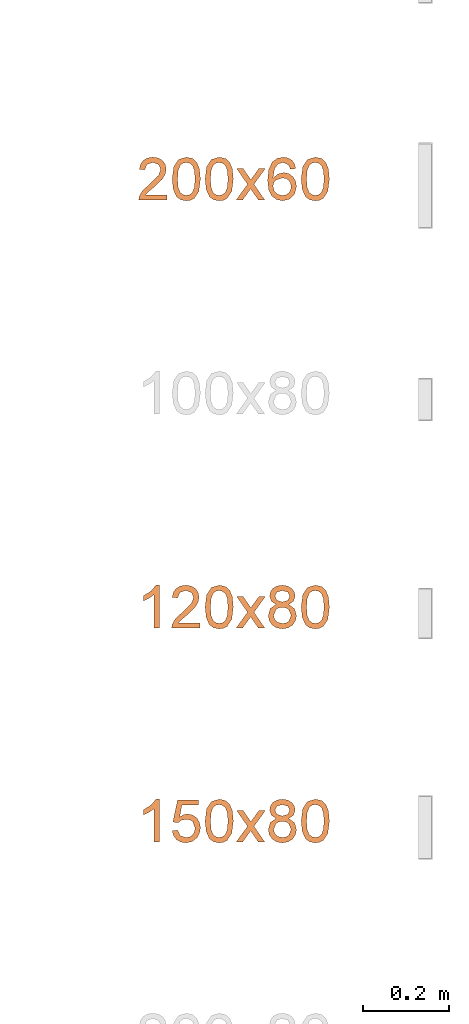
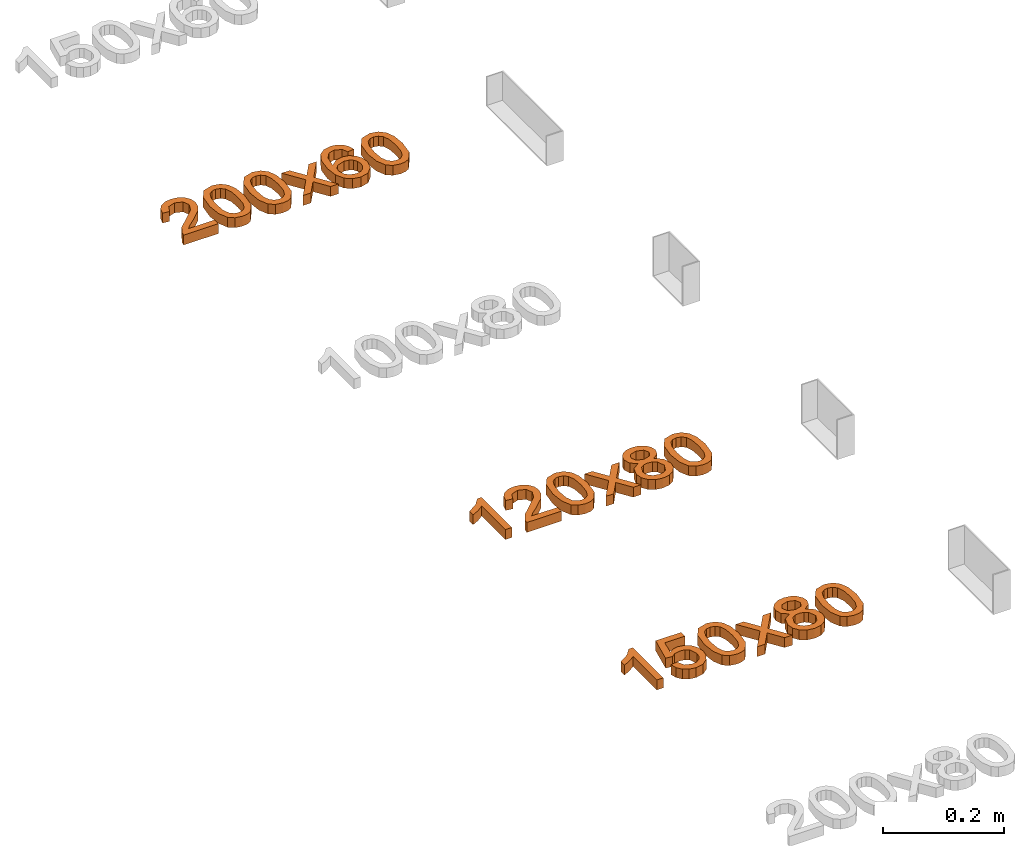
# One storey, part 57 of 71: 3 proxies.
"""IFC2X3 building model written with IfcOpenShell, lengths in millimetres."""

from ifc_helpers import new_model, entity, si_unit, converted_unit, derived_unit, direction, frame, origin, place, context, subcontext, project, spatial, polyline, outline, extrude, element, save


model = new_model("IFC2X3")

# Units and contexts
model_context = context("Model", 3, precision=0.01, world=origin(), true_north=direction((6.12303176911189e-17, 1.0)))
body_context = subcontext(model_context, "Body", "Model", "MODEL_VIEW")
ifc_project = project(units=[si_unit("LENGTHUNIT", "METRE", prefix="MILLI"), si_unit("AREAUNIT", "SQUARE_METRE"), si_unit("VOLUMEUNIT", "CUBIC_METRE"), converted_unit("PLANEANGLEUNIT", "DEGREE", entity("IfcRatioMeasure", 0.0174532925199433), si_unit("PLANEANGLEUNIT", "RADIAN"), dimensions=[0, 0, 0, 0, 0, 0, 0]), si_unit("MASSUNIT", "GRAM", prefix="KILO"), derived_unit("MASSDENSITYUNIT", [(si_unit("MASSUNIT", "GRAM", prefix="KILO"), 1), (si_unit("LENGTHUNIT", "METRE"), -3)]), si_unit("TIMEUNIT", "SECOND"), si_unit("FREQUENCYUNIT", "HERTZ"), si_unit("THERMODYNAMICTEMPERATUREUNIT", "DEGREE_CELSIUS"), derived_unit("THERMALTRANSMITTANCEUNIT", [(si_unit("MASSUNIT", "GRAM", prefix="KILO"), 1), (si_unit("THERMODYNAMICTEMPERATUREUNIT", "KELVIN"), -1), (si_unit("TIMEUNIT", "SECOND"), -3)]), derived_unit("VOLUMETRICFLOWRATEUNIT", [(si_unit("LENGTHUNIT", "METRE"), 3), (si_unit("TIMEUNIT", "SECOND"), -1)]), si_unit("ELECTRICCURRENTUNIT", "AMPERE"), si_unit("ELECTRICVOLTAGEUNIT", "VOLT"), si_unit("POWERUNIT", "WATT"), si_unit("FORCEUNIT", "NEWTON", prefix="KILO"), si_unit("ILLUMINANCEUNIT", "LUX"), si_unit("LUMINOUSFLUXUNIT", "LUMEN"), si_unit("LUMINOUSINTENSITYUNIT", "CANDELA"), derived_unit("USERDEFINED", [(si_unit("MASSUNIT", "GRAM", prefix="KILO"), -1), (si_unit("LENGTHUNIT", "METRE"), -2), (si_unit("TIMEUNIT", "SECOND"), 3), (si_unit("LUMINOUSFLUXUNIT", "LUMEN"), 1)]), derived_unit("LINEARVELOCITYUNIT", [(si_unit("LENGTHUNIT", "METRE"), 1), (si_unit("TIMEUNIT", "SECOND"), -1)]), si_unit("PRESSUREUNIT", "PASCAL"), derived_unit("USERDEFINED", [(si_unit("LENGTHUNIT", "METRE"), -2), (si_unit("MASSUNIT", "GRAM", prefix="KILO"), 1), (si_unit("TIMEUNIT", "SECOND"), -2)])], contexts=[model_context])

# Site, building, storey
site_placement = place(None, origin())
site = spatial("IfcSite", under=ifc_project, at=site_placement, Name="Default", CompositionType="ELEMENT")
building_placement = place(site_placement, origin())
building = spatial("IfcBuilding", under=site, at=building_placement, Name="Наименование здания", CompositionType="ELEMENT")
storey_placement = place(building_placement, origin())
storey = spatial("IfcBuildingStorey", under=building, at=storey_placement, Name="Этаж 01", CompositionType="ELEMENT", Elevation=0.0)

# Proxies
proxy_1_placement = place(storey_placement, origin())
element("IfcBuildingElementProxy", 1, at=proxy_1_placement, inside=storey, Name="Текст модели:100 мм Arial", ObjectType="Текст модели:100 мм Arial", context=body_context, shape_type="SweptSolid", body=[
    extrude(outline(polyline([(-32.3858783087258, -45.1669477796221), (-32.3858783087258, -57.7239865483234), (33.5385752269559, -57.7239865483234), (32.1896745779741, -49.0664969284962), (24.5622545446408, -35.7369059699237), (8.84143061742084, -21.1810416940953), (-12.8390816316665, -0.26081890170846), (-18.259209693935, 13.9639515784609), (-13.1456499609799, 25.4786580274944), (0.208466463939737, 30.1752848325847), (14.1266686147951, 25.5890226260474), (19.4119066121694, 12.9093565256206), (31.968945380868, 14.4789863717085), (28.9247218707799, 26.6252235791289), (22.3426998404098, 35.4973110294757), (12.5662358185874, 40.9235704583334), (-0.0613136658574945, 42.732323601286), (-12.7808336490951, 40.721235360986), (-22.5389035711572, 34.6879706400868), (-28.7469122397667, 25.6748617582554), (-30.816248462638, 14.7242410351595), (-28.584431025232, 2.81712712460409), (-21.1654774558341, -9.49465698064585), (-3.17604789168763, -26.6992716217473), (11.2694517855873, -38.7780637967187), (16.9348345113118, -45.1669477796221), (-32.3858783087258, -45.1669477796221)])), frame((23949.9248832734, -2395.611269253, 0.0), z_axis=(0.0, 0.0, -1.0), x_axis=(-1.0, 0.0, 0.0)), (0.0, 0.0, -1.0), 20.0),
    extrude(outline(polyline([(-7.02884310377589, -33.3490673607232), (17.5323805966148, -33.3490673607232), (35.1984171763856, -27.6137612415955), (43.3439841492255, -18.4876517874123), (47.0516941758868, -5.7515066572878), (46.7162020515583, 4.48638208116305), (43.4465778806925, 13.0955287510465), (27.9444305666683, 25.6659118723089), (-0.314338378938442, 32.2325535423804), (-24.0296505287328, 32.367828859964), (-39.4143020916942, 28.0260881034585), (-49.7293680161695, 18.9002174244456), (-54.4436715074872, 4.63998875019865), (-50.8676582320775, -14.1301059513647), (-35.405854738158, -26.7333390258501), (-7.02884310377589, -33.3490673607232)]), holes=[polyline([(-5.77428774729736, -20.8548320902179), (-25.0157644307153, -17.3562860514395), (-36.7257089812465, -11.5717922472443), (-41.0962588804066, -4.77599682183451), (-41.9669219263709, 3.21464792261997), (-39.2244253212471, 11.2791292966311), (-32.8654063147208, 17.2229259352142), (-20.9698370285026, 20.2947501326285), (-1.61768958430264, 19.743314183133), (17.8514140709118, 16.270770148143), (28.7803640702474, 10.7141596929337), (33.554698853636, 3.61815959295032), (34.5599568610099, -4.47255337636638), (31.9421230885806, -12.192319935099), (25.8471825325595, -18.1754808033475), (14.0250679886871, -21.4027476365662), (-5.77428774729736, -20.8548320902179)])]), frame((24028.7593379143, -2407.51207886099, 0.0), z_axis=(0.0, 0.0, 1.0), x_axis=(0.101851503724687, -0.994799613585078, 0.0)), (0.0, 0.0, 1.0), 20.0),
    extrude(outline(polyline([(-7.02884310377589, -33.3490673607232), (17.5323805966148, -33.3490673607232), (35.1984171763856, -27.6137612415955), (43.3439841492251, -18.4876517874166), (47.0516941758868, -5.7515066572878), (46.7162020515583, 4.48638208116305), (43.4465778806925, 13.0955287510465), (27.9444305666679, 25.6659118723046), (-0.314338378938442, 32.2325535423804), (-24.0296505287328, 32.367828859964), (-39.4143020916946, 28.0260881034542), (-49.7293680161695, 18.9002174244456), (-54.4436715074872, 4.63998875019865), (-50.867658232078, -14.130105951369), (-35.405854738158, -26.7333390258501), (-7.02884310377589, -33.3490673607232)]), holes=[polyline([(-5.7742877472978, -20.8548320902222), (-25.0157644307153, -17.3562860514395), (-36.7257089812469, -11.5717922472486), (-41.096258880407, -4.77599682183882), (-41.9669219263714, 3.21464792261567), (-39.2244253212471, 11.2791292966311), (-32.8654063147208, 17.2229259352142), (-20.969837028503, 20.2947501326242), (-1.61768958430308, 19.7433141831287), (17.8514140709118, 16.270770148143), (28.7803640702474, 10.7141596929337), (33.5546988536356, 3.61815959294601), (34.5599568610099, -4.47255337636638), (31.9421230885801, -12.1923199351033), (25.8471825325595, -18.1754808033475), (14.0250679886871, -21.4027476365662), (-5.7742877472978, -20.8548320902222)])]), frame((24105.6712003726, -2407.51207886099, 0.0), z_axis=(0.0, 0.0, 1.0), x_axis=(0.101851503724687, -0.994799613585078, 0.0)), (0.0, 0.0, 1.0), 20.0),
    extrude(outline(polyline([(-34.5302215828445, -38.4265006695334), (-19.4225343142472, -38.4265006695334), (-0.341721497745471, -12.0616243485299), (2.47870713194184, -16.1328517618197), (17.8561745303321, -38.4265006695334), (32.9638617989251, -38.4265006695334), (7.40832586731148, -1.34399555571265), (33.9448804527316, 35.3461020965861), (18.8371931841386, 35.3461020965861), (4.95577923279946, 16.1671874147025), (0.0261604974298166, 9.34910777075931), (-5.66374769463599, 17.6877663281), (-17.8529044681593, 35.3461020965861), (-32.9605917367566, 35.3461020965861), (-7.69936140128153, -1.34399555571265), (-34.5302215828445, -38.4265006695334)])), frame((24178.512857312, -2414.90875513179, 0.0)), (0.0, 0.0, 1.0), 20.0),
    extrude(outline(polyline([(6.79275401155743, -32.5027761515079), (18.3659045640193, -32.5027761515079), (28.152520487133, -28.8011371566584), (35.6312934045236, -21.7178704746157), (40.2809149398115, -11.5729874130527), (41.4130789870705, 3.23667074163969), (36.139124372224, 16.3729018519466), (21.8599739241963, 28.8803269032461), (-1.50836821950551, 38.2054593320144), (-23.6059131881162, 41.7609274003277), (-39.9814227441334, 38.5965283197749), (-51.165079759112, 29.9216784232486), (-57.6870671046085, 16.9457940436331), (-57.9805556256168, -0.0494879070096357), (-49.2081886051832, -14.3141019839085), (-33.6167855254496, -22.9350568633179), (-20.6265742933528, -24.2502330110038), (-8.97800352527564, -20.6254922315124), (0.0919027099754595, -13.0350962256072), (5.34612034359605, -2.45330669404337), (5.8548316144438, 11.6447254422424), (-0.843339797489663, 24.9910631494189), (19.7707676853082, 15.5765036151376), (28.4840991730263, 4.26766164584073), (28.3893512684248, -7.46374532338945), (19.9956250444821, -18.1936336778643), (8.63303585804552, -19.9825396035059), (6.79275401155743, -32.5027761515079)]), holes=[polyline([(-18.7586717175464, 29.9549594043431), (-11.6328110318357, 26.3613362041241), (-6.94154076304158, 20.2038317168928), (-5.85783236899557, 4.13761066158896), (-9.48331864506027, -3.95286412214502), (-15.1077394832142, -9.26901644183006), (-22.3091633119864, -11.5969098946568), (-30.6656585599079, -10.7226080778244), (-38.6094491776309, -7.06141592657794), (-43.8637090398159, -1.22509865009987), (-46.1835287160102, 6.17768396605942), (-45.3239987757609, 14.5382721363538), (-39.6901171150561, 24.7221971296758), (-30.0168134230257, 30.0585493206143), (-18.7586717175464, 29.9549594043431)])]), frame((24254.1707871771, -2394.7875175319, 0.0), z_axis=(0.0, 0.0, 1.0), x_axis=(-0.267015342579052, 0.963692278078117, 0.0)), (0.0, 0.0, 1.0), 20.0),
    extrude(outline(polyline([(-7.02884310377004, -33.3490673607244), (17.5323805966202, -33.3490673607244), (35.1984171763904, -27.6137612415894), (43.3439841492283, -18.487651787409), (47.0516941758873, -5.75150665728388), (46.716202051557, 4.48638208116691), (43.4465778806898, 13.0955287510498), (27.9444305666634, 25.6659118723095), (-0.314338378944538, 32.2325535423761), (-24.0296505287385, 32.3678288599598), (-39.4143020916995, 28.0260881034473), (-49.7293680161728, 18.9002174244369), (-54.4436715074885, 4.63998875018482), (-50.8676582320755, -14.1301059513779), (-35.4058547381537, -26.7333390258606), (-7.02884310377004, -33.3490673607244)]), holes=[polyline([(-5.77428774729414, -20.8548320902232), (-25.0157644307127, -17.3562860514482), (-36.7257089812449, -11.5717922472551), (-41.0962588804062, -4.77599682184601), (-41.966921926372, 3.21464792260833), (-39.2244253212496, 11.2791292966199), (-32.8654063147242, 17.2229259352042), (-20.9698370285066, 20.2947501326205), (-1.61768958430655, 19.7433141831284), (17.8514140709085, 16.2707701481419), (28.7803640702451, 10.7141596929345), (33.5546988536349, 3.61815959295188), (34.5599568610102, -4.47255337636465), (31.9421230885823, -12.1923199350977), (25.8471825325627, -18.175480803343), (14.0250679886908, -21.4027476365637), (-5.77428774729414, -20.8548320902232)])]), frame((24330.1282683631, -2407.51207886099, 0.0), z_axis=(0.0, 0.0, 1.0), x_axis=(0.101851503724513, -0.994799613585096, 0.0)), (0.0, 0.0, 1.0), 20.0),
])
proxy_2_placement = place(storey_placement, origin())
element("IfcBuildingElementProxy", 2, at=proxy_2_placement, inside=storey, Name="Текст модели:100 мм Arial", ObjectType="Текст модели:100 мм Arial", context=body_context, shape_type="SweptSolid", body=[
    extrude(outline(polyline([(-63.8793021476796, -16.9184842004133), (36.5770080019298, -16.9184842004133), (36.5770080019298, -8.82508030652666), (23.2106288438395, 2.34626961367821), (11.4629304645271, 20.7526321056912), (-0.407395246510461, 20.7526321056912), (5.93243780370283, 7.53340574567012), (14.4059864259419, -4.3614454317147), (-63.8793021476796, -4.3614454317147), (-63.8793021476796, -16.9184842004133)])), frame((23948.1263490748, -3389.45595365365, 0.0), z_axis=(0.0, 0.0, 1.0), x_axis=(0.0, 1.0, 0.0)), (0.0, 0.0, 1.0), 20.0),
    extrude(outline(polyline([(-32.3858783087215, -45.1669477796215), (-32.3858783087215, -57.7239865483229), (33.5385752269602, -57.7239865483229), (32.1896745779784, -49.0664969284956), (24.5622545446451, -35.7369059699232), (8.84143061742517, -21.1810416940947), (-12.8390816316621, -0.260818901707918), (-18.259209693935, 13.9639515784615), (-13.1456499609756, 25.478658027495), (0.208466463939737, 30.1752848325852), (14.1266686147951, 25.589022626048), (19.4119066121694, 12.9093565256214), (31.9689453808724, 14.4789863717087), (28.9247218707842, 26.6252235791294), (22.3426998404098, 35.4973110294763), (12.5662358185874, 40.923570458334), (-0.061313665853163, 42.7323236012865), (-12.7808336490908, 40.7212353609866), (-22.5389035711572, 34.6879706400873), (-28.7469122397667, 25.6748617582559), (-30.8162484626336, 14.7242410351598), (-28.5844310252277, 2.81712712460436), (-21.1654774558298, -9.49465698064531), (-3.1760478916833, -26.6992716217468), (11.2694517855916, -38.7780637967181), (16.9348345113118, -45.1669477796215), (-32.3858783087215, -45.1669477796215)])), frame((24026.8367457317, -3395.61126925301, 0.0), z_axis=(0.0, 0.0, -1.0), x_axis=(-1.0, 0.0, 0.0)), (0.0, 0.0, -1.0), 20.0),
    extrude(outline(polyline([(-7.02884310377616, -33.3490673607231), (17.5323805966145, -33.3490673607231), (35.1984171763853, -27.6137612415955), (43.3439841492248, -18.4876517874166), (47.0516941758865, -5.75150665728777), (46.716202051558, 4.48638208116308), (43.4465778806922, 13.0955287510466), (27.9444305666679, 25.6659118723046), (-0.314338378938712, 32.2325535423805), (-24.0296505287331, 32.367828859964), (-39.4143020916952, 28.0260881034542), (-49.7293680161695, 18.9002174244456), (-54.4436715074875, 4.63998875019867), (-50.867658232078, -14.130105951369), (-35.405854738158, -26.7333390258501), (-7.02884310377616, -33.3490673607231)]), holes=[polyline([(-5.77428774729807, -20.8548320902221), (-25.0157644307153, -17.3562860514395), (-36.7257089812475, -11.5717922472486), (-41.0962588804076, -4.77599682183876), (-41.9669219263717, 3.21464792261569), (-39.2244253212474, 11.2791292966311), (-32.8654063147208, 17.2229259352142), (-20.969837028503, 20.2947501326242), (-1.61768958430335, 19.7433141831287), (17.8514140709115, 16.2707701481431), (28.7803640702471, 10.7141596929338), (33.5546988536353, 3.61815959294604), (34.5599568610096, -4.47255337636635), (31.9421230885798, -12.1923199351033), (25.8471825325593, -18.1754808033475), (14.0250679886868, -21.4027476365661), (-5.77428774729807, -20.8548320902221)])]), frame((24105.6712003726, -3407.512078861, 0.0), z_axis=(0.0, 0.0, 1.0), x_axis=(0.101851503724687, -0.994799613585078, 0.0)), (0.0, 0.0, 1.0), 20.0),
    extrude(outline(polyline([(-34.5302215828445, -38.4265006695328), (-19.4225343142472, -38.4265006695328), (-0.341721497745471, -12.0616243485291), (2.47870713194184, -16.1328517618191), (17.8561745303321, -38.4265006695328), (32.9638617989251, -38.4265006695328), (7.40832586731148, -1.34399555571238), (33.9448804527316, 35.3461020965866), (18.8371931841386, 35.3461020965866), (4.95577923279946, 16.1671874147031), (0.0261604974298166, 9.34910777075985), (-5.66374769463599, 17.6877663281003), (-17.8529044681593, 35.3461020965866), (-32.9605917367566, 35.3461020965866), (-7.69936140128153, -1.34399555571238), (-34.5302215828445, -38.4265006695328)])), frame((24178.512857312, -3414.9087551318, 0.0)), (0.0, 0.0, 1.0), 20.0),
    extrude(outline(polyline([(10.1224324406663, -11.2212127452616), (26.4477736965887, -11.2212127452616), (39.6861381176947, -0.0909413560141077), (44.6322314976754, 11.3078156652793), (44.5856416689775, 23.4168603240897), (39.6073830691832, 34.8346290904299), (29.7584701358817, 44.1595584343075), (17.4236057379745, 49.7956565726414), (4.98749274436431, 50.1469317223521), (-6.20047708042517, 45.7236060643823), (-14.7909119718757, 37.0359017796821), (-20.078166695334, 21.0056847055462), (-14.5070621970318, 5.37692494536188), (-28.0684052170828, 5.15563707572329), (-37.7221714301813, -2.60845010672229), (-41.5236361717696, -11.935700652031), (-41.0036870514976, -22.2232653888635), (-36.191615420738, -32.187077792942), (-27.1167126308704, -40.5430713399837), (-16.0503295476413, -45.812309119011), (-5.18246445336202, -46.5706787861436), (4.384533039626, -43.2361071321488), (11.5483133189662, -36.2265209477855), (15.251624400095, -24.0826582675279), (10.1224324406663, -11.2212127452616)]), holes=[polyline([(1.34077476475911, -28.903904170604), (-7.53771017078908, -33.9815875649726), (-20.2415350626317, -30.0339976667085), (-28.5905650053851, -19.6902819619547), (-26.980093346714, -9.13787919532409), (-18.1108932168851, -3.87648928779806), (-5.45128168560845, -7.82385811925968), (3.15927028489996, -18.2403048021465), (1.34077476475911, -28.903904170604)]), polyline([(29.0262968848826, 6.56051660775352), (17.1806533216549, -1.51571690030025), (9.68494123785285, -1.27757268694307), (1.95268767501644, 2.32885586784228), (-4.46267094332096, 8.27886886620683), (-7.6416115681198, 15.3010558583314), (-4.59707955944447, 29.6929468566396), (7.31333657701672, 37.7994665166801), (14.8367372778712, 37.4872096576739), (22.6595729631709, 33.8012523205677), (30.3730358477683, 25.5864099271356), (32.5711030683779, 15.5727469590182), (29.0262968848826, 6.56051660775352)])]), frame((24252.2860732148, -3401.65422231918, 0.0), z_axis=(0.0, 0.0, 1.0), x_axis=(-0.829266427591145, -0.558853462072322, 0.0)), (0.0, 0.0, 1.0), 20.0),
    extrude(outline(polyline([(-7.02884310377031, -33.3490673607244), (17.5323805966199, -33.3490673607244), (35.1984171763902, -27.6137612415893), (43.343984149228, -18.487651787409), (47.0516941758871, -5.75150665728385), (46.7162020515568, 4.48638208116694), (43.4465778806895, 13.0955287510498), (27.9444305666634, 25.6659118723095), (-0.314338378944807, 32.2325535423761), (-24.0296505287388, 32.3678288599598), (-39.4143020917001, 28.0260881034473), (-49.7293680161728, 18.9002174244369), (-54.4436715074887, 4.63998875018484), (-50.8676582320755, -14.1301059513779), (-35.4058547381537, -26.7333390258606), (-7.02884310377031, -33.3490673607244)]), holes=[polyline([(-5.77428774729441, -20.8548320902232), (-25.0157644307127, -17.3562860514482), (-36.7257089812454, -11.571792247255), (-41.0962588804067, -4.77599682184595), (-41.9669219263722, 3.21464792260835), (-39.2244253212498, 11.27912929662), (-32.8654063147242, 17.2229259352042), (-20.9698370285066, 20.2947501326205), (-1.61768958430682, 19.7433141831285), (17.8514140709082, 16.2707701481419), (28.7803640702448, 10.7141596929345), (33.5546988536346, 3.61815959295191), (34.5599568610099, -4.47255337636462), (31.942123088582, -12.1923199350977), (25.8471825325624, -18.1754808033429), (14.0250679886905, -21.4027476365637), (-5.77428774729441, -20.8548320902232)])]), frame((24330.1282683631, -3407.512078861, 0.0), z_axis=(0.0, 0.0, 1.0), x_axis=(0.101851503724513, -0.994799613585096, 0.0)), (0.0, 0.0, 1.0), 20.0),
])
proxy_3_placement = place(storey_placement, origin())
element("IfcBuildingElementProxy", 3, at=proxy_3_placement, inside=storey, Name="Текст модели:100 мм Arial", ObjectType="Текст модели:100 мм Arial", context=body_context, shape_type="SweptSolid", body=[
    extrude(outline(polyline([(-63.8793021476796, -16.9184842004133), (36.5770080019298, -16.9184842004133), (36.5770080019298, -8.82508030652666), (23.2106288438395, 2.34626961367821), (11.4629304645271, 20.7526321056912), (-0.407395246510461, 20.7526321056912), (5.93243780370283, 7.53340574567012), (14.4059864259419, -4.3614454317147), (-63.8793021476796, -4.3614454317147), (-63.8793021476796, -16.9184842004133)])), frame((23948.1263490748, -3889.45595365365, 0.0), z_axis=(0.0, 0.0, 1.0), x_axis=(0.0, 1.0, 0.0)), (0.0, 0.0, 1.0), 20.0),
    extrude(outline(polyline([(3.81439562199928, -37.254895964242), (15.7323946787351, -37.254895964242), (26.1588137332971, -33.0579698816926), (34.2921694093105, -25.0537205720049), (39.330978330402, -13.6317508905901), (40.2219288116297, 1.4340909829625), (34.3991305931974, 14.6815107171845), (25.535021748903, 23.1481891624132), (13.9054384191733, 28.2770976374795), (0.912111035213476, 29.4702838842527), (-10.715925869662, 25.7768606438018), (-19.7427074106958, 18.0989984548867), (-24.9322687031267, 7.33886785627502), (-25.5937300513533, -2.211247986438), (-22.6370240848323, -12.2793380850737), (-47.9924930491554, 0.0204883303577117), (-38.0977082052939, 37.2324069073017), (-50.2330599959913, 40.4592412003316), (-62.7370428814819, -6.56524698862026), (-15.5021967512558, -30.4943712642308), (-10.758443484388, -18.7623737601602), (-14.4216298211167, -10.4922324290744), (-13.6981616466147, 0.722667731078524), (-9.98738154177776, 9.35727561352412), (-4.32553373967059, 14.6878856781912), (11.4370636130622, 15.94006870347), (19.7481682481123, 12.2772427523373), (25.435572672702, 6.40632241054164), (28.0665145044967, -1.27212018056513), (27.2082313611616, -10.3575128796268), (19.6530635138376, -21.9256319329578), (5.52431094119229, -24.7161898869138), (3.81439562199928, -37.254895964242)])), frame((24029.8914117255, -3913.39170175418, 0.0), z_axis=(0.0, 0.0, 1.0), x_axis=(0.256974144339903, -0.966418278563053, 0.0)), (0.0, 0.0, 1.0), 20.0),
    extrude(outline(polyline([(-7.02884310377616, -33.3490673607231), (17.5323805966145, -33.3490673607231), (35.1984171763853, -27.6137612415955), (43.3439841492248, -18.4876517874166), (47.0516941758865, -5.75150665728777), (46.716202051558, 4.48638208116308), (43.4465778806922, 13.0955287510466), (27.9444305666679, 25.6659118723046), (-0.314338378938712, 32.2325535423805), (-24.0296505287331, 32.367828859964), (-39.4143020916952, 28.0260881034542), (-49.7293680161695, 18.9002174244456), (-54.4436715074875, 4.63998875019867), (-50.867658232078, -14.130105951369), (-35.405854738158, -26.7333390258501), (-7.02884310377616, -33.3490673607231)]), holes=[polyline([(-5.77428774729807, -20.8548320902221), (-25.0157644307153, -17.3562860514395), (-36.7257089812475, -11.5717922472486), (-41.0962588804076, -4.77599682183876), (-41.9669219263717, 3.21464792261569), (-39.2244253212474, 11.2791292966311), (-32.8654063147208, 17.2229259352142), (-20.969837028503, 20.2947501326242), (-1.61768958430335, 19.7433141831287), (17.8514140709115, 16.2707701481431), (28.7803640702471, 10.7141596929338), (33.5546988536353, 3.61815959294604), (34.5599568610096, -4.47255337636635), (31.9421230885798, -12.1923199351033), (25.8471825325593, -18.1754808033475), (14.0250679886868, -21.4027476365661), (-5.77428774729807, -20.8548320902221)])]), frame((24105.6712003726, -3907.51207886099, 0.0), z_axis=(0.0, 0.0, 1.0), x_axis=(0.101851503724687, -0.994799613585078, 0.0)), (0.0, 0.0, 1.0), 20.0),
    extrude(outline(polyline([(-34.5302215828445, -38.4265006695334), (-19.4225343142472, -38.4265006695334), (-0.341721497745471, -12.0616243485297), (2.47870713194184, -16.1328517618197), (17.8561745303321, -38.4265006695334), (32.9638617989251, -38.4265006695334), (7.40832586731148, -1.34399555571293), (33.9448804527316, 35.3461020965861), (18.8371931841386, 35.3461020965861), (4.95577923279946, 16.1671874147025), (0.0261604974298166, 9.34910777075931), (-5.66374769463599, 17.6877663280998), (-17.8529044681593, 35.3461020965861), (-32.9605917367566, 35.3461020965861), (-7.69936140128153, -1.34399555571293), (-34.5302215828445, -38.4265006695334)])), frame((24178.512857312, -3914.9087551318, 0.0)), (0.0, 0.0, 1.0), 20.0),
    extrude(outline(polyline([(10.122432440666, -11.221212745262), (26.4477736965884, -11.221212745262), (39.6861381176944, -0.0909413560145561), (44.6322314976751, 11.3078156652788), (44.5856416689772, 23.4168603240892), (39.6073830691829, 34.8346290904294), (29.7584701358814, 44.159558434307), (17.4236057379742, 49.795656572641), (4.98749274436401, 50.1469317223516), (-6.20047708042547, 45.7236060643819), (-14.790911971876, 37.0359017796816), (-20.0781666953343, 21.0056847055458), (-14.5070621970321, 5.37692494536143), (-28.0684052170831, 5.15563707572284), (-37.7221714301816, -2.60845010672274), (-41.5236361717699, -11.9357006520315), (-41.0036870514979, -22.2232653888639), (-36.1916154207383, -32.1870777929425), (-27.1167126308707, -40.5430713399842), (-16.0503295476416, -45.8123091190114), (-5.18246445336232, -46.5706787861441), (4.3845330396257, -43.2361071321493), (11.5483133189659, -36.2265209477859), (15.2516244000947, -24.0826582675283), (10.122432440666, -11.221212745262)]), holes=[polyline([(29.0262968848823, 6.56051660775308), (17.1806533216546, -1.5157169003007), (9.68494123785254, -1.27757268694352), (1.95268767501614, 2.32885586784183), (-4.46267094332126, 8.27886886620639), (-7.64161156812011, 15.3010558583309), (-4.59707955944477, 29.6929468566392), (7.31333657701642, 37.7994665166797), (14.8367372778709, 37.4872096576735), (22.6595729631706, 33.8012523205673), (30.373035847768, 25.5864099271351), (32.5711030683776, 15.5727469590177), (29.0262968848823, 6.56051660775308)]), polyline([(1.34077476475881, -28.9039041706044), (-7.53771017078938, -33.9815875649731), (-20.241535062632, -30.0339976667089), (-28.5905650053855, -19.6902819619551), (-26.9800933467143, -9.13787919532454), (-18.1108932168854, -3.8764892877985), (-5.45128168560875, -7.82385811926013), (3.15927028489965, -18.2403048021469), (1.34077476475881, -28.9039041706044)])]), frame((24252.2860732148, -3901.65422231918, 0.0), z_axis=(0.0, 0.0, 1.0), x_axis=(-0.829266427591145, -0.558853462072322, 0.0)), (0.0, 0.0, 1.0), 20.0),
    extrude(outline(polyline([(-7.02884310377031, -33.3490673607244), (17.5323805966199, -33.3490673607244), (35.1984171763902, -27.6137612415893), (43.343984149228, -18.487651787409), (47.0516941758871, -5.75150665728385), (46.7162020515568, 4.48638208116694), (43.4465778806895, 13.0955287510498), (27.9444305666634, 25.6659118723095), (-0.314338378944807, 32.2325535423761), (-24.0296505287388, 32.3678288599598), (-39.4143020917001, 28.0260881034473), (-49.7293680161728, 18.9002174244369), (-54.4436715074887, 4.63998875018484), (-50.8676582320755, -14.1301059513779), (-35.4058547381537, -26.7333390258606), (-7.02884310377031, -33.3490673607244)]), holes=[polyline([(-5.77428774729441, -20.8548320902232), (-25.0157644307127, -17.3562860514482), (-36.7257089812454, -11.571792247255), (-41.0962588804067, -4.77599682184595), (-41.9669219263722, 3.21464792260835), (-39.2244253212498, 11.27912929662), (-32.8654063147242, 17.2229259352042), (-20.9698370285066, 20.2947501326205), (-1.61768958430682, 19.7433141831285), (17.8514140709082, 16.2707701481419), (28.7803640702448, 10.7141596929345), (33.5546988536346, 3.61815959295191), (34.5599568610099, -4.47255337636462), (31.942123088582, -12.1923199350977), (25.8471825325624, -18.1754808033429), (14.0250679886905, -21.4027476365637), (-5.77428774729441, -20.8548320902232)])]), frame((24330.1282683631, -3907.51207886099, 0.0), z_axis=(0.0, 0.0, 1.0), x_axis=(0.101851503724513, -0.994799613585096, 0.0)), (0.0, 0.0, 1.0), 20.0),
])

save(model, "model.ifc")
